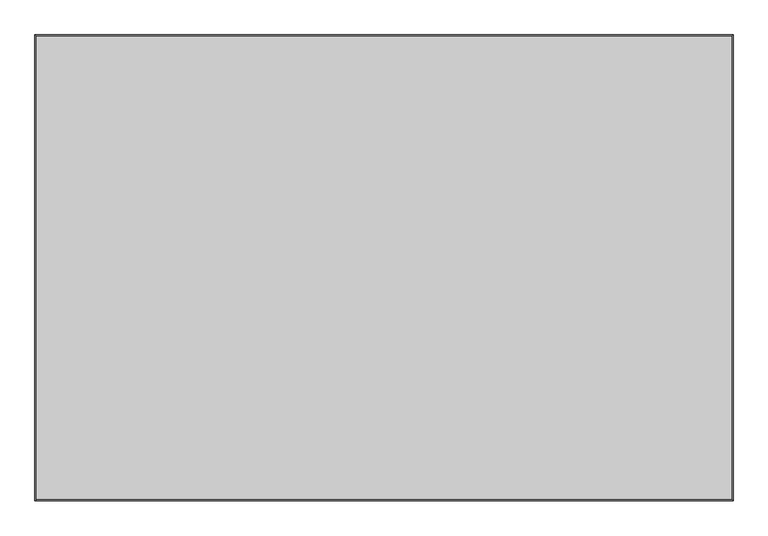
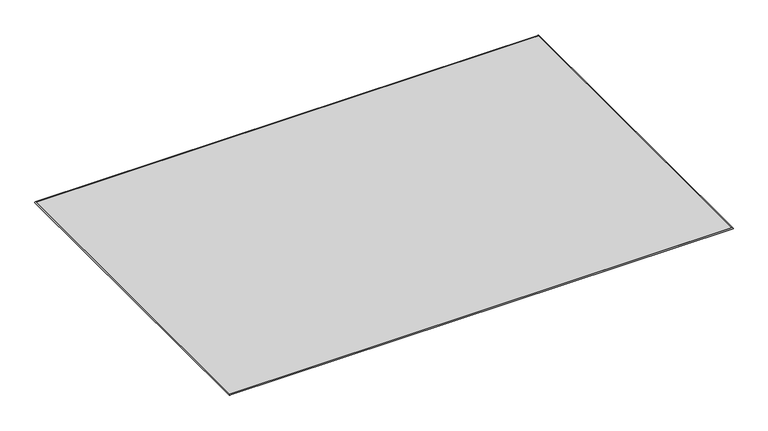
"""IFC4 building model written with IfcOpenShell, lengths in millimetres: furniture geometry, Haworth_MangasNatural_Rugs : HCGN-MNT Area Rug."""

from ifc_helpers import new_model, si_unit, frame, origin, origin_with_axes, place, context, project, spatial, polyline, ellipse_curve, outline, extrude, source, transform, mapped, element, save
from ifc_brep_helpers import plane_surface, cylinder_surface, advanced_brep


def furniture_aebbd6c7(model_context):
    return source(origin(), model_context, "Body", "SolidModel", [
        advanced_brep(
        [(-299.0453125, 998.7855469, 6.35), (-299.0453125, 998.7855469, 0.0), (-299.0453125, -1000.1746094, 0.0), (-299.0453125, -1000.1746094, 6.35), (2700.734375, -1000.1746094, 0.0), (2700.734375, -1000.1746094, 6.35), (2700.734375, 998.7855469, 0.0), (2700.734375, 998.7855469, 6.35)],
        [
            (0, 1, ellipse_curve(frame((-300.1097864, 999.8500208, 3.175), z_axis=(-0.7071067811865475, -0.7071067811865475, 0.0), x_axis=(-0.7071067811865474, 0.7071067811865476, 0.0)), 4.7357639, 3.3486907)),
            (1, 2),
            (2, 3, ellipse_curve(frame((-300.1097864, -1001.2390833, 3.175), z_axis=(-0.7071067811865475, 0.7071067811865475, 0.0), x_axis=(0.7071067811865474, 0.7071067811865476, 0.0)), 4.7357639, 3.3486907)),
            (3, 0),
            (1, 0),
            (3, 2),
            (2, 4),
            (4, 5, ellipse_curve(frame((2701.7988489, -1001.2390833, 3.175), z_axis=(-0.7071067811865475, -0.7071067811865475, 0.0), x_axis=(-0.7071067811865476, 0.7071067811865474, 0.0)), 4.7357639, 3.3486907)),
            (5, 3),
            (5, 4),
            (4, 6),
            (6, 7, ellipse_curve(frame((2701.7988489, 999.8500208, 3.175), z_axis=(0.7071067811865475, -0.7071067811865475, 0.0), x_axis=(-0.7071067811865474, -0.7071067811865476, 0.0)), 4.7357639, 3.3486907)),
            (7, 5),
            (7, 6),
            (6, 1),
            (0, 7),
        ],
        [
            cylinder_surface(frame((-300.1097864, 998.7855469, 3.175), z_axis=(0.0, 1.0, 0.0), x_axis=(1.0, 0.0, 0.0)), 3.3486907),
            plane_surface(frame((-299.0453125, 998.7855469, 6.35), z_axis=(1.0, 0.0, 0.0), x_axis=(0.0, -1.0, 0.0))),
            cylinder_surface(frame((-299.0453125, -1001.2390833, 3.175), z_axis=(-1.0, 0.0, 0.0), x_axis=(0.0, 1.0, 0.0)), 3.3486907),
            plane_surface(frame((-299.0453125, -1000.1746094, 6.35), z_axis=(0.0, 1.0, 0.0), x_axis=(1.0, 0.0, 0.0))),
            cylinder_surface(frame((2701.7988489, -1000.1746094, 3.175), z_axis=(0.0, -1.0, 0.0), x_axis=(-1.0, 0.0, 0.0)), 3.3486907),
            plane_surface(frame((2700.734375, -1000.1746094, 6.35), z_axis=(-1.0, 0.0, 0.0), x_axis=(0.0, 1.0, 0.0))),
            cylinder_surface(frame((2700.734375, 999.8500208, 3.175), z_axis=(1.0, 0.0, 0.0), x_axis=(0.0, -1.0, 0.0)), 3.3486907),
            plane_surface(frame((2700.734375, 998.7855469, 6.35), z_axis=(0.0, -1.0, 0.0), x_axis=(-1.0, 0.0, 0.0))),
        ],
        [
            (0, [[1, 2, 3, 4]]),
            (1, [[5, -4, 6, -2]]),
            (2, [[-3, 7, 8, 9]]),
            (3, [[-6, -9, 10, -7]]),
            (4, [[-8, 11, 12, 13]]),
            (5, [[-10, -13, 14, -11]]),
            (6, [[-12, 15, -1, 16]]),
            (7, [[-14, -16, -5, -15]]),
        ],
    ),
        extrude(outline(polyline([(2700.734375, 998.7855469), (2700.734375, -1000.1746094), (-299.0453125, -1000.1746094), (-299.0453125, 998.7855469), (2700.734375, 998.7855469)])), origin_with_axes(), (0.0, 0.0, 1.0), 6.35),
    ])


if __name__ == "__main__":
    model = new_model("IFC4")
    model_context = context("Model", 3, world=origin())
    ifc_project = project(units=[si_unit("LENGTHUNIT", "METRE", prefix="MILLI")], contexts=[model_context])
    site = spatial("IfcSite", under=ifc_project)
    building = spatial("IfcBuilding", under=site)
    placement = place(None, origin())
    furniture_shape = furniture_aebbd6c7(model_context)
    element("IfcFurniture", 1, ObjectType="Haworth_MangasNatural_Rugs : HCGN-MNT Area Rug", at=placement, inside=building, context=model_context, shape_type="MappedRepresentation", body=[
        mapped(furniture_shape, transform((0.0, 0.0, 0.0), x_axis=(1.0, 0.0, 0.0), y_axis=(0.0, 1.0, 0.0), z_axis=(0.0, 0.0, 1.0))),
    ])
    save(model, "model.ifc")
